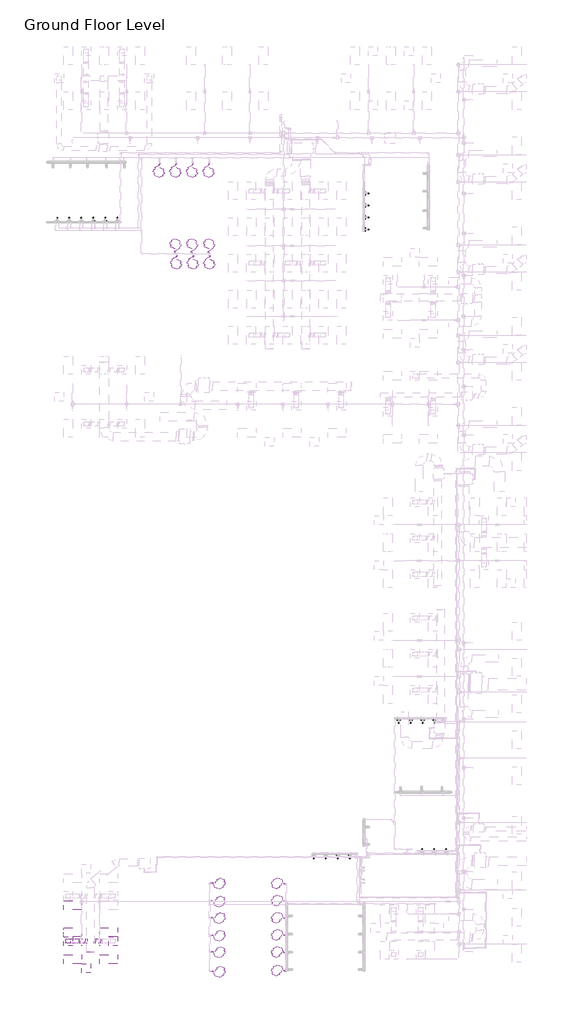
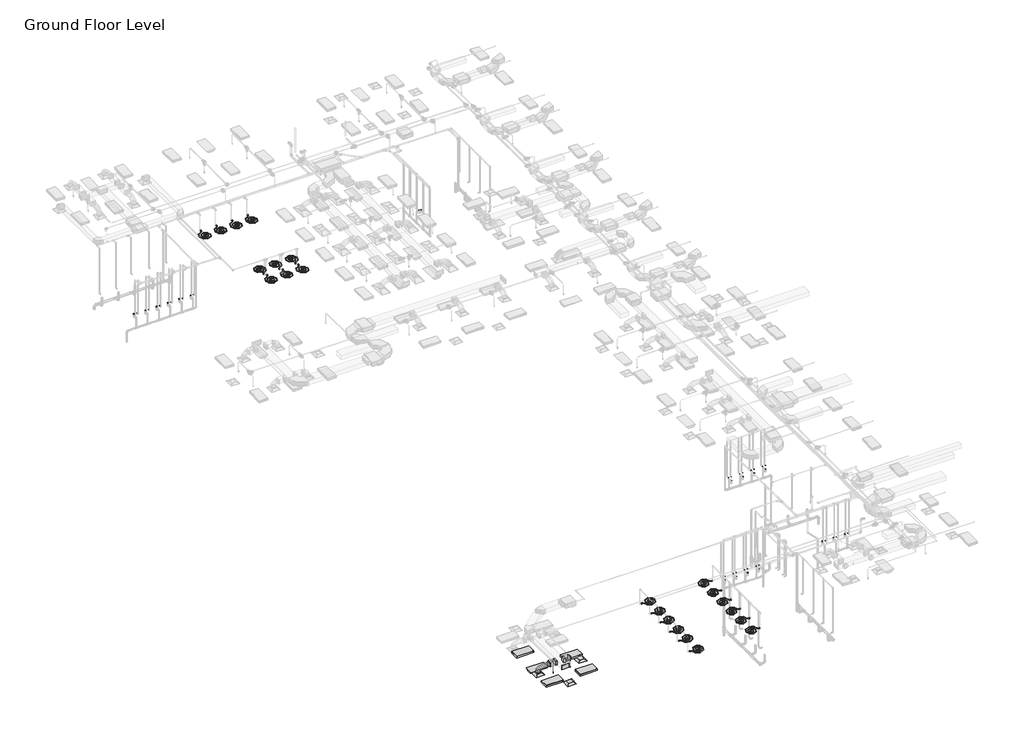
# One storey, part 1 of 66: 43 flow terminals, 6 duct fittings, 5 light fixtures, 3 air terminals, 3 duct segments, 2 fire suppression terminals, 2 pipe segments.
"""IFC4 building model written with IfcOpenShell, lengths in millimetres."""

from ifc_helpers import new_model, si_unit, point, frame, frame_2d, origin, place, context, project, spatial, polyline, circle_curve, ellipse_curve, trimmed, segment, composite_curve, outline, extrude, transform, mapped, element, save
from ifc_brep_helpers import plane_surface, cylinder_surface, advanced_brep
from components import m_return_diffuser_600_x_600_face_300_x_300_connection_ff221211, m_rectangular_endcap_standard_72d4d00d, m_rectangular_takeoff_standard_cb0ccb98, m_rectangular_takeoff_standard_2be5eba1, m_rectangular_to_round_transition_angle_45_degree_641efff0, m_sprinkler_dry_pendent_hosted_15_mm_dry_pendent_9bda8e11, lavatory_unit_m_type_1_c53317d3, shower_m_shower_m_096738a5, m_emergency_recessed_lighting_fixture_600x1200_277_5b10b25d, m_troffer_light_parabolic_rectangular1_0600x1200mm_4_lamp_86473d4a

model = new_model("IFC4")

# Units and contexts
model_context = context("Model", 3, world=origin())
ifc_project = project(units=[si_unit("LENGTHUNIT", "METRE", prefix="MILLI")], contexts=[model_context])

# Site, building, storey
site = spatial("IfcSite", under=ifc_project)
building = spatial("IfcBuilding", under=site)
storey = spatial("IfcBuildingStorey", under=building, Name="Ground Floor Level", Elevation=900.0)

# Air terminals
placement = place(None, origin())
m_return_diffuser_600_x_600_face_300_x_300_connection_shape = m_return_diffuser_600_x_600_face_300_x_300_connection_ff221211(model_context)
element("IfcAirTerminal", 1, ObjectType="M_Return Diffuser : 600 x 600 Face 300 x 300 Connection", at=placement, inside=storey, context=model_context, shape_type="MappedRepresentation", body=[
    mapped(m_return_diffuser_600_x_600_face_300_x_300_connection_shape, transform((-19137.2327605, -40464.7846466, 3650.0), x_axis=(1.0, 0.0, 0.0), y_axis=(0.0, 1.0, 0.0), z_axis=(0.0, 0.0, 1.0))),
])
element("IfcAirTerminal", 2, ObjectType="M_Supply Diffuser : 600 x 600 Face 300 x 300 Connection", at=placement, inside=storey, context=model_context, shape_type="MappedRepresentation", body=[
    mapped(m_return_diffuser_600_x_600_face_300_x_300_connection_shape, transform((-20337.2327605, -38664.7846466, 3650.0), x_axis=(1.0, 0.0, 0.0), y_axis=(0.0, 1.0, 0.0), z_axis=(0.0, 0.0, 1.0))),
])
element("IfcAirTerminal", 3, ObjectType="M_Supply Diffuser : 600 x 600 Face 300 x 300 Connection", at=placement, inside=storey, context=model_context, shape_type="MappedRepresentation", body=[
    mapped(m_return_diffuser_600_x_600_face_300_x_300_connection_shape, transform((-17337.2327605, -38674.7846466, 3650.0), x_axis=(1.0, 0.0, 0.0), y_axis=(0.0, 1.0, 0.0), z_axis=(0.0, 0.0, 1.0))),
])

# Duct fittings
m_rectangular_endcap_standard_shape = m_rectangular_endcap_standard_72d4d00d(model_context)
element("IfcDuctFitting", 4, ObjectType="M_Rectangular Endcap : Standard", at=placement, inside=storey, context=model_context, shape_type="MappedRepresentation", body=[
    mapped(m_rectangular_endcap_standard_shape, transform((-18834.0450532, -39368.1580197, 4100.0), x_axis=(0.0, -1.0, 0.0), y_axis=(1.0, 0.0, 0.0), z_axis=(0.0, 0.0, 1.0))),
])
m_rectangular_takeoff_standard_shape = m_rectangular_takeoff_standard_cb0ccb98(model_context)
element("IfcDuctFitting", 5, ObjectType="M_Rectangular Takeoff : Standard", at=placement, inside=storey, context=model_context, shape_type="MappedRepresentation", body=[
    mapped(m_rectangular_takeoff_standard_shape, transform((-18584.0450532, -38664.7846466, 4100.0), x_axis=(1.0, 0.0, 0.0), y_axis=(0.0, -1.0, 0.0), z_axis=(0.0, 0.0, -1.0))),
])
m_rectangular_takeoff_standard_2_shape = m_rectangular_takeoff_standard_2be5eba1(model_context)
element("IfcDuctFitting", 6, ObjectType="M_Rectangular Takeoff : Standard", at=placement, inside=storey, context=model_context, shape_type="MappedRepresentation", body=[
    mapped(m_rectangular_takeoff_standard_2_shape, transform((-19084.0450532, -38664.7846466, 4100.0), x_axis=(-1.0, 0.0, 0.0), y_axis=(0.0, 1.0, 0.0), z_axis=(0.0, 0.0, -1.0))),
])
m_rectangular_to_round_transition_angle_45_degree_shape = m_rectangular_to_round_transition_angle_45_degree_641efff0(model_context)
element("IfcDuctFitting", 7, ObjectType="M_Rectangular to Round Transition - Angle : 45 Degree", at=placement, inside=storey, context=model_context, shape_type="MappedRepresentation", body=[
    mapped(m_rectangular_to_round_transition_angle_45_degree_shape, transform((-18164.5686918, -38664.7846466, 4100.0), x_axis=(1.0, 0.0, 0.0), y_axis=(0.0, 1.0, 0.0), z_axis=(0.0, 0.0, 1.0))),
])
element("IfcDuctFitting", 8, ObjectType="M_Rectangular to Round Transition - Angle : 45 Degree", at=placement, inside=storey, context=model_context, shape_type="MappedRepresentation", body=[
    mapped(m_rectangular_to_round_transition_angle_45_degree_shape, transform((-20337.2327605, -38664.7846466, 3751.6), x_axis=(0.0, 0.0, 1.0), y_axis=(-1.0, 0.0, 0.0), z_axis=(0.0, -1.0, 0.0))),
])
element("IfcDuctFitting", 9, ObjectType="M_Rectangular to Round Transition - Angle : 45 Degree", at=placement, inside=storey, context=model_context, shape_type="MappedRepresentation", body=[
    mapped(m_rectangular_to_round_transition_angle_45_degree_shape, transform((-19509.8968292, -38664.7846466, 4100.0), x_axis=(-1.0, 0.0, 0.0), y_axis=(0.0, -1.0, 0.0), z_axis=(0.0, 0.0, 1.0))),
])

# Duct segments
element("IfcDuctSegment", 10, ObjectType="Flex - Round", at=placement, inside=storey, context=model_context, shape_type="AdvancedBrep", body=[
    advanced_brep(
    [(-20187.2327605, -38664.7846466, 3826.6), (-20337.2327605, -38814.7846466, 3826.6), (-20487.2327605, -38664.7846466, 3826.6), (-20337.2327605, -38514.7846466, 3826.6), (-20187.2327605, -38664.7846466, 3832.2944892), (-20337.2327605, -38814.7846466, 3857.9377114), (-20487.2327605, -38664.7846466, 3883.5809337), (-20337.2327605, -38514.7846466, 3857.9377114), (-20186.478849, -38664.7846466, 3834.435049), (-20320.216828, -38814.7846466, 3906.2505728), (-20453.9548069, -38664.7846466, 3978.0660967), (-20320.216828, -38514.7846466, 3906.2505728), (-20168.8270484, -38664.7846466, 3857.8020236), (-20273.0329476, -38814.7846466, 3968.7113131), (-20377.2388469, -38664.7846466, 4079.6206026), (-20273.0329476, -38514.7846466, 3968.7113131), (-20132.5429398, -38664.7846466, 3881.8163788), (-20201.4769955, -38814.7846466, 4016.0700639), (-20270.4110511, -38664.7846466, 4150.3237489), (-20201.4769955, -38514.7846466, 4016.0700639), (-20067.7840843, -38664.7846466, 3906.4925606), (-20111.3448475, -38814.7846466, 4050.4146682), (-20154.9056106, -38664.7846466, 4194.3367758), (-20111.3448475, -38514.7846466, 4050.4146682), (-19981.8714556, -38664.7846466, 3926.0424542), (-20008.4323796, -38814.7846466, 4073.8329691), (-20034.9933036, -38664.7846466, 4221.6234841), (-20008.4323796, -38514.7846466, 4073.8329691), (-19883.3845655, -38664.7846466, 3939.1085462), (-19898.5354679, -38814.7846466, 4088.4128097), (-19913.6863702, -38664.7846466, 4237.7170733), (-19898.5354679, -38514.7846466, 4088.4128097), (-19779.9446601, -38664.7846466, 3946.398915), (-19787.4499883, -38814.7846466, 4096.242033), (-19794.9553164, -38664.7846466, 4246.085151), (-19787.4499883, -38514.7846466, 4096.242033), (-19678.2803236, -38664.7846466, 3949.4222102), (-19680.9718167, -38814.7846466, 4099.4084821), (-19683.6633098, -38664.7846466, 4249.394754), (-19680.9718167, -38514.7846466, 4099.4084821), (-19583.9733214, -38664.7846466, 3950.0028429), (-19584.8968292, -38814.7846466, 4100.0), (-19585.8203371, -38664.7846466, 4249.9971571), (-19584.8968292, -38514.7846466, 4100.0)],
    [
        (0, 1, circle_curve(frame((-20337.2327605, -38664.7846466, 3826.6), z_axis=(0.0, 0.0, -1.0), x_axis=(1.0, 0.0, 0.0)), 150.0)),
        (1, 2, circle_curve(frame((-20337.2327605, -38664.7846466, 3826.6), z_axis=(0.0, 0.0, -1.0), x_axis=(1.0, 0.0, 0.0)), 150.0)),
        (2, 3, circle_curve(frame((-20337.2327605, -38664.7846466, 3826.6), z_axis=(0.0, 0.0, -1.0), x_axis=(1.0, 0.0, 0.0)), 150.0)),
        (3, 0, circle_curve(frame((-20337.2327605, -38664.7846466, 3826.6), z_axis=(0.0, 0.0, -1.0), x_axis=(1.0, 0.0, 0.0)), 150.0)),
        (0, 4),
        (4, 5, ellipse_curve(frame((-20337.2327605, -38664.7846466, 3857.9377114), z_axis=(-0.16851014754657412, 0.0, -0.9856999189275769), x_axis=(0.9856999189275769, 0.0, -0.16851014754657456)), 152.176131, 150.0)),
        (5, 1),
        (5, 6, ellipse_curve(frame((-20337.2327605, -38664.7846466, 3857.9377114), z_axis=(-0.16851014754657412, 0.0, -0.9856999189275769), x_axis=(0.9856999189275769, 0.0, -0.16851014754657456)), 152.176131, 150.0)),
        (6, 2),
        (6, 7, ellipse_curve(frame((-20337.2327605, -38664.7846466, 3857.9377114), z_axis=(-0.16851014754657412, 0.0, -0.9856999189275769), x_axis=(0.9856999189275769, 0.0, -0.16851014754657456)), 152.176131, 150.0)),
        (7, 3),
        (7, 4, ellipse_curve(frame((-20337.2327605, -38664.7846466, 3857.9377114), z_axis=(-0.16851014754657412, 0.0, -0.9856999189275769), x_axis=(0.9856999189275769, 0.0, -0.16851014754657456)), 152.176131, 150.0)),
        (4, 8),
        (8, 9, ellipse_curve(frame((-20320.216828, -38664.7846466, 3906.2505728), z_axis=(-0.47309225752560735, 0.0, -0.881012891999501), x_axis=(0.8810128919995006, 0.0, -0.4730922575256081)), 151.8002519, 150.0)),
        (9, 5),
        (9, 10, ellipse_curve(frame((-20320.216828, -38664.7846466, 3906.2505728), z_axis=(-0.47309225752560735, 0.0, -0.881012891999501), x_axis=(0.8810128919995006, 0.0, -0.4730922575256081)), 151.8002519, 150.0)),
        (10, 6),
        (10, 11, ellipse_curve(frame((-20320.216828, -38664.7846466, 3906.2505728), z_axis=(-0.47309225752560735, 0.0, -0.881012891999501), x_axis=(0.8810128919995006, 0.0, -0.4730922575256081)), 151.8002519, 150.0)),
        (11, 7),
        (11, 8, ellipse_curve(frame((-20320.216828, -38664.7846466, 3906.2505728), z_axis=(-0.47309225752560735, 0.0, -0.881012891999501), x_axis=(0.8810128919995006, 0.0, -0.4730922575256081)), 151.8002519, 150.0)),
        (8, 12),
        (12, 13, ellipse_curve(frame((-20273.0329476, -38664.7846466, 3968.7113131), z_axis=(-0.728787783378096, 0.0, -0.6847396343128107), x_axis=(0.6847396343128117, 0.0, -0.7287877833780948)), 152.1832446, 150.0)),
        (13, 9),
        (13, 14, ellipse_curve(frame((-20273.0329476, -38664.7846466, 3968.7113131), z_axis=(-0.728787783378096, 0.0, -0.6847396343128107), x_axis=(0.6847396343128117, 0.0, -0.7287877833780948)), 152.1832446, 150.0)),
        (14, 10),
        (14, 15, ellipse_curve(frame((-20273.0329476, -38664.7846466, 3968.7113131), z_axis=(-0.728787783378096, 0.0, -0.6847396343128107), x_axis=(0.6847396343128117, 0.0, -0.7287877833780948)), 152.1832446, 150.0)),
        (15, 11),
        (15, 12, ellipse_curve(frame((-20273.0329476, -38664.7846466, 3968.7113131), z_axis=(-0.728787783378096, 0.0, -0.6847396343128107), x_axis=(0.6847396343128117, 0.0, -0.7287877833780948)), 152.1832446, 150.0)),
        (12, 16),
        (16, 17, ellipse_curve(frame((-20201.4769955, -38664.7846466, 4016.0700639), z_axis=(-0.8895859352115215, 0.0, -0.4567678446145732), x_axis=(0.45676784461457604, 0.0, -0.88958593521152)), 150.91705, 150.0)),
        (17, 13),
        (17, 18, ellipse_curve(frame((-20201.4769955, -38664.7846466, 4016.0700639), z_axis=(-0.8895859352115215, 0.0, -0.4567678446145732), x_axis=(0.45676784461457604, 0.0, -0.88958593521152)), 150.91705, 150.0)),
        (18, 14),
        (18, 19, ellipse_curve(frame((-20201.4769955, -38664.7846466, 4016.0700639), z_axis=(-0.8895859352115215, 0.0, -0.4567678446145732), x_axis=(0.45676784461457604, 0.0, -0.88958593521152)), 150.91705, 150.0)),
        (19, 15),
        (19, 16, ellipse_curve(frame((-20201.4769955, -38664.7846466, 4016.0700639), z_axis=(-0.8895859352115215, 0.0, -0.4567678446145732), x_axis=(0.45676784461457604, 0.0, -0.88958593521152)), 150.91705, 150.0)),
        (16, 20),
        (20, 21, ellipse_curve(frame((-20111.3448475, -38664.7846466, 4050.4146682), z_axis=(-0.9571203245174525, 0.0, -0.2896906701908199), x_axis=(0.28969067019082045, 0.0, -0.9571203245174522)), 150.369921, 150.0)),
        (21, 17),
        (21, 22, ellipse_curve(frame((-20111.3448475, -38664.7846466, 4050.4146682), z_axis=(-0.9571203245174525, 0.0, -0.2896906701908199), x_axis=(0.28969067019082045, 0.0, -0.9571203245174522)), 150.369921, 150.0)),
        (22, 18),
        (22, 23, ellipse_curve(frame((-20111.3448475, -38664.7846466, 4050.4146682), z_axis=(-0.9571203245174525, 0.0, -0.2896906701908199), x_axis=(0.28969067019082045, 0.0, -0.9571203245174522)), 150.369921, 150.0)),
        (23, 19),
        (23, 20, ellipse_curve(frame((-20111.3448475, -38664.7846466, 4050.4146682), z_axis=(-0.9571203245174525, 0.0, -0.2896906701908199), x_axis=(0.28969067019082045, 0.0, -0.9571203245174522)), 150.369921, 150.0)),
        (20, 24),
        (24, 25, ellipse_curve(frame((-20008.4323796, -38664.7846466, 4073.8329691), z_axis=(-0.9842313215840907, 0.0, -0.17688613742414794), x_axis=(0.17688613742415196, 0.0, -0.9842313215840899)), 150.1583131, 150.0)),
        (25, 21),
        (25, 26, ellipse_curve(frame((-20008.4323796, -38664.7846466, 4073.8329691), z_axis=(-0.9842313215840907, 0.0, -0.17688613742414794), x_axis=(0.17688613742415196, 0.0, -0.9842313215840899)), 150.1583131, 150.0)),
        (26, 22),
        (26, 27, ellipse_curve(frame((-20008.4323796, -38664.7846466, 4073.8329691), z_axis=(-0.9842313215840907, 0.0, -0.17688613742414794), x_axis=(0.17688613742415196, 0.0, -0.9842313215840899)), 150.1583131, 150.0)),
        (27, 23),
        (27, 24, ellipse_curve(frame((-20008.4323796, -38664.7846466, 4073.8329691), z_axis=(-0.9842313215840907, 0.0, -0.17688613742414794), x_axis=(0.17688613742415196, 0.0, -0.9842313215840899)), 150.1583131, 150.0)),
        (24, 28),
        (28, 29, ellipse_curve(frame((-19898.5354679, -38664.7846466, 4088.4128097), z_axis=(-0.9948906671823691, 0.0, -0.1009582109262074), x_axis=(0.10095821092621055, 0.0, -0.9948906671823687)), 150.0710264, 150.0)),
        (29, 25),
        (29, 30, ellipse_curve(frame((-19898.5354679, -38664.7846466, 4088.4128097), z_axis=(-0.9948906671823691, 0.0, -0.1009582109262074), x_axis=(0.10095821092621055, 0.0, -0.9948906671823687)), 150.0710264, 150.0)),
        (30, 26),
        (30, 31, ellipse_curve(frame((-19898.5354679, -38664.7846466, 4088.4128097), z_axis=(-0.9948906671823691, 0.0, -0.1009582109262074), x_axis=(0.10095821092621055, 0.0, -0.9948906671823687)), 150.0710264, 150.0)),
        (31, 27),
        (31, 28, ellipse_curve(frame((-19898.5354679, -38664.7846466, 4088.4128097), z_axis=(-0.9948906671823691, 0.0, -0.1009582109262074), x_axis=(0.10095821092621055, 0.0, -0.9948906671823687)), 150.0710264, 150.0)),
        (28, 32),
        (32, 33, ellipse_curve(frame((-19787.4499883, -38664.7846466, 4096.242033), z_axis=(-0.9987479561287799, 0.0, -0.05002519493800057), x_axis=(0.05002519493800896, 0.0, -0.9987479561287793)), 150.0309634, 150.0)),
        (33, 29),
        (33, 34, ellipse_curve(frame((-19787.4499883, -38664.7846466, 4096.242033), z_axis=(-0.9987479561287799, 0.0, -0.05002519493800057), x_axis=(0.05002519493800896, 0.0, -0.9987479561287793)), 150.0309634, 150.0)),
        (34, 30),
        (34, 35, ellipse_curve(frame((-19787.4499883, -38664.7846466, 4096.242033), z_axis=(-0.9987479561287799, 0.0, -0.05002519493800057), x_axis=(0.05002519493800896, 0.0, -0.9987479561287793)), 150.0309634, 150.0)),
        (35, 31),
        (35, 32, ellipse_curve(frame((-19787.4499883, -38664.7846466, 4096.242033), z_axis=(-0.9987479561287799, 0.0, -0.05002519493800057), x_axis=(0.05002519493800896, 0.0, -0.9987479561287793)), 150.0309634, 150.0)),
        (32, 36),
        (36, 37, ellipse_curve(frame((-19680.9718167, -38664.7846466, 4099.4084821), z_axis=(-0.9998390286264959, 0.0, -0.017942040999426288), x_axis=(0.01794204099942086, 0.0, -0.999839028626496)), 150.0104193, 150.0)),
        (37, 33),
        (37, 38, ellipse_curve(frame((-19680.9718167, -38664.7846466, 4099.4084821), z_axis=(-0.9998390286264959, 0.0, -0.017942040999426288), x_axis=(0.01794204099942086, 0.0, -0.999839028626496)), 150.0104193, 150.0)),
        (38, 34),
        (38, 39, ellipse_curve(frame((-19680.9718167, -38664.7846466, 4099.4084821), z_axis=(-0.9998390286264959, 0.0, -0.017942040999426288), x_axis=(0.01794204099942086, 0.0, -0.999839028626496)), 150.0104193, 150.0)),
        (39, 35),
        (39, 36, ellipse_curve(frame((-19680.9718167, -38664.7846466, 4099.4084821), z_axis=(-0.9998390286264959, 0.0, -0.017942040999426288), x_axis=(0.01794204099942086, 0.0, -0.999839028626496)), 150.0104193, 150.0)),
        (36, 40),
        (40, 41, circle_curve(frame((-19584.8968292, -38664.7846466, 4100.0), z_axis=(-0.9999810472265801, 0.0, -0.006156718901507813), x_axis=(0.006156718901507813, 0.0, -0.9999810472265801)), 150.0)),
        (41, 37),
        (41, 42, circle_curve(frame((-19584.8968292, -38664.7846466, 4100.0), z_axis=(-0.9999810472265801, 0.0, -0.006156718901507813), x_axis=(0.006156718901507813, 0.0, -0.9999810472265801)), 150.0)),
        (42, 38),
        (42, 43, circle_curve(frame((-19584.8968292, -38664.7846466, 4100.0), z_axis=(-0.9999810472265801, 0.0, -0.006156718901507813), x_axis=(0.006156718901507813, 0.0, -0.9999810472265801)), 150.0)),
        (43, 39),
        (43, 40, circle_curve(frame((-19584.8968292, -38664.7846466, 4100.0), z_axis=(-0.9999810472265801, 0.0, -0.006156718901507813), x_axis=(0.006156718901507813, 0.0, -0.9999810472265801)), 150.0)),
    ],
    [
        plane_surface(frame((-20337.2327605, -38814.7846466, 3826.6), z_axis=(0.0, 0.0, -1.0), x_axis=(1.0, 0.0, 0.0))),
        cylinder_surface(frame((-20337.2327605, -38664.7846466, 3826.6), z_axis=(0.0, 0.0, -1.0), x_axis=(1.0, 0.0, 0.0)), 150.0),
        cylinder_surface(frame((-20337.2327605, -38664.7846466, 3857.9377114), z_axis=(-0.3322008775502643, 0.0, -0.9432086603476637), x_axis=(0.9432086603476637, 0.0, -0.3322008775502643)), 150.0),
        cylinder_surface(frame((-20320.216828, -38664.7846466, 3906.2505728), z_axis=(-0.602762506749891, 0.0, -0.7979206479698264), x_axis=(0.7979206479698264, 0.0, -0.602762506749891)), 150.0),
        cylinder_surface(frame((-20273.0329476, -38664.7846466, 3968.7113131), z_axis=(-0.8339024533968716, 0.0, -0.5519118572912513), x_axis=(0.5519118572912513, 0.0, -0.8339024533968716)), 150.0),
        cylinder_surface(frame((-20201.4769955, -38664.7846466, 4016.0700639), z_axis=(-0.9344582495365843, 0.0, -0.35607271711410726), x_axis=(0.35607271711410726, 0.0, -0.9344582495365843)), 150.0),
        cylinder_surface(frame((-20111.3448475, -38664.7846466, 4050.4146682), z_axis=(-0.9750732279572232, 0.0, -0.2218833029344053), x_axis=(0.2218833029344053, 0.0, -0.9750732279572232)), 150.0),
        cylinder_surface(frame((-20008.4323796, -38664.7846466, 4073.8329691), z_axis=(-0.9913140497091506, 0.0, -0.13151598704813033), x_axis=(0.13151598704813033, 0.0, -0.9913140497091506)), 150.0),
        cylinder_surface(frame((-19898.5354679, -38664.7846466, 4088.4128097), z_axis=(-0.9975255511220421, 0.0, -0.07030487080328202), x_axis=(0.07030487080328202, 0.0, -0.9975255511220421)), 150.0),
        cylinder_surface(frame((-19787.4499883, -38664.7846466, 4096.242033), z_axis=(-0.9995581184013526, 0.0, -0.02972487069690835), x_axis=(0.02972487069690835, 0.0, -0.9995581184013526)), 150.0),
        cylinder_surface(frame((-19680.9718167, -38664.7846466, 4099.4084821), z_axis=(-0.9999810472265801, 0.0, -0.006156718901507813), x_axis=(0.006156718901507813, 0.0, -0.9999810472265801)), 150.0),
        plane_surface(frame((-19584.8968292, -38814.7846466, 4100.0), z_axis=(0.9999810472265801, 0.0, 0.00615671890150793), x_axis=(0.00615671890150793, 0.0, -0.9999810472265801))),
    ],
    [
        (0, [[1, 2, 3, 4]]),
        (1, [[-1, 5, 6, 7]]),
        (1, [[-2, -7, 8, 9]]),
        (1, [[-3, -9, 10, 11]]),
        (1, [[-4, -11, 12, -5]]),
        (2, [[-6, 13, 14, 15]]),
        (2, [[-8, -15, 16, 17]]),
        (2, [[-10, -17, 18, 19]]),
        (2, [[-12, -19, 20, -13]]),
        (3, [[-14, 21, 22, 23]]),
        (3, [[-16, -23, 24, 25]]),
        (3, [[-18, -25, 26, 27]]),
        (3, [[-20, -27, 28, -21]]),
        (4, [[-22, 29, 30, 31]]),
        (4, [[-24, -31, 32, 33]]),
        (4, [[-26, -33, 34, 35]]),
        (4, [[-28, -35, 36, -29]]),
        (5, [[-30, 37, 38, 39]]),
        (5, [[-32, -39, 40, 41]]),
        (5, [[-34, -41, 42, 43]]),
        (5, [[-36, -43, 44, -37]]),
        (6, [[-38, 45, 46, 47]]),
        (6, [[-40, -47, 48, 49]]),
        (6, [[-42, -49, 50, 51]]),
        (6, [[-44, -51, 52, -45]]),
        (7, [[-46, 53, 54, 55]]),
        (7, [[-48, -55, 56, 57]]),
        (7, [[-50, -57, 58, 59]]),
        (7, [[-52, -59, 60, -53]]),
        (8, [[-54, 61, 62, 63]]),
        (8, [[-56, -63, 64, 65]]),
        (8, [[-58, -65, 66, 67]]),
        (8, [[-60, -67, 68, -61]]),
        (9, [[-62, 69, 70, 71]]),
        (9, [[-64, -71, 72, 73]]),
        (9, [[-66, -73, 74, 75]]),
        (9, [[-68, -75, 76, -69]]),
        (10, [[-70, 77, 78, 79]]),
        (10, [[-72, -79, 80, 81]]),
        (10, [[-74, -81, 82, 83]]),
        (10, [[-76, -83, 84, -77]]),
        (11, [[-84, -82, -80, -78]]),
    ],
),
])
element("IfcDuctSegment", 11, ObjectType="Radius Elbows / Taps", at=placement, inside=storey, context=model_context, shape_type="SweptSolid", body=[
    extrude(outline(polyline([(-19185.6450532, -38514.7846466), (-19185.6450532, -38814.7846466), (-19509.8968292, -38814.7846466), (-19509.8968292, -38514.7846466), (-19185.6450532, -38514.7846466)])), frame((0.0, 0.0, 3950.0), z_axis=(0.0, 0.0, 1.0), x_axis=(1.0, 0.0, 0.0)), (0.0, 0.0, 1.0), 300.0),
])
element("IfcDuctSegment", 12, ObjectType="Radius Elbows / Taps", at=placement, inside=storey, context=model_context, shape_type="SweptSolid", body=[
    extrude(outline(polyline([(-18482.4450532, -38814.7846466), (-18482.4450532, -38514.7846466), (-18164.5686918, -38514.7846466), (-18164.5686918, -38814.7846466), (-18482.4450532, -38814.7846466)])), frame((0.0, 0.0, 3950.0), z_axis=(0.0, 0.0, 1.0), x_axis=(1.0, 0.0, 0.0)), (0.0, 0.0, 1.0), 300.0),
])

# Fire suppression terminals
m_sprinkler_dry_pendent_hosted_15_mm_dry_pendent_shape = m_sprinkler_dry_pendent_hosted_15_mm_dry_pendent_9bda8e11(model_context)
element("IfcFireSuppressionTerminal", 13, ObjectType="M_Sprinkler - Dry - Pendent - Hosted : 15 mm Dry Pendent", at=placement, inside=storey, context=model_context, shape_type="MappedRepresentation", body=[
    mapped(m_sprinkler_dry_pendent_hosted_15_mm_dry_pendent_shape, transform((-18237.2327605, -38964.7846466, 3650.0), x_axis=(1.0, 0.0, 0.0), y_axis=(0.0, -1.0, 0.0), z_axis=(0.0, 0.0, -1.0))),
])
element("IfcFireSuppressionTerminal", 14, ObjectType="M_Sprinkler - Dry - Pendent - Hosted : 15 mm Dry Pendent", at=placement, inside=storey, context=model_context, shape_type="MappedRepresentation", body=[
    mapped(m_sprinkler_dry_pendent_hosted_15_mm_dry_pendent_shape, transform((-19437.2327605, -38964.7846466, 3650.0), x_axis=(1.0, 0.0, 0.0), y_axis=(0.0, -1.0, 0.0), z_axis=(0.0, 0.0, -1.0))),
])

# Flow terminals
lavatory_unit_m_type_1_shape = lavatory_unit_m_type_1_c53317d3(model_context)
element("IfcFlowTerminal", 15, ObjectType="Lavatory Unit-M : Type 1", at=placement, inside=storey, context=model_context, shape_type="MappedRepresentation", body=[
    mapped(lavatory_unit_m_type_1_shape, transform((-21186.2502, 9255.2153534, 920.0), x_axis=(1.0, 0.0, 0.0), y_axis=(0.0, 1.0, 0.0), z_axis=(0.0, 0.0, 1.0))),
])
element("IfcFlowTerminal", 16, ObjectType="Lavatory Unit-M : Type 1", at=placement, inside=storey, context=model_context, shape_type="MappedRepresentation", body=[
    mapped(lavatory_unit_m_type_1_shape, transform((-20386.2502, 9255.2153534, 920.0), x_axis=(1.0, 0.0, 0.0), y_axis=(0.0, 1.0, 0.0), z_axis=(0.0, 0.0, 1.0))),
])
element("IfcFlowTerminal", 17, ObjectType="Lavatory Unit-M : Type 1", at=placement, inside=storey, context=model_context, shape_type="MappedRepresentation", body=[
    mapped(lavatory_unit_m_type_1_shape, transform((-537.2327605, 8796.1979139, 920.0), x_axis=(0.0, -1.0, 0.0), y_axis=(1.0, 0.0, 0.0), z_axis=(0.0, 0.0, 1.0))),
])
element("IfcFlowTerminal", 18, ObjectType="Lavatory Unit-M : Type 1", at=placement, inside=storey, context=model_context, shape_type="MappedRepresentation", body=[
    mapped(lavatory_unit_m_type_1_shape, transform((-19586.2502, 9255.2153534, 920.0), x_axis=(1.0, 0.0, 0.0), y_axis=(0.0, 1.0, 0.0), z_axis=(0.0, 0.0, 1.0))),
])
element("IfcFlowTerminal", 19, ObjectType="Lavatory Unit-M : Type 1", at=placement, inside=storey, context=model_context, shape_type="MappedRepresentation", body=[
    mapped(lavatory_unit_m_type_1_shape, transform((-18786.2502, 9255.2153534, 920.0), x_axis=(1.0, 0.0, 0.0), y_axis=(0.0, 1.0, 0.0), z_axis=(0.0, 0.0, 1.0))),
])
element("IfcFlowTerminal", 20, ObjectType="Lavatory Unit-M : Type 1", at=placement, inside=storey, context=model_context, shape_type="MappedRepresentation", body=[
    mapped(lavatory_unit_m_type_1_shape, transform((-17986.2502, 9255.2153534, 920.0), x_axis=(1.0, 0.0, 0.0), y_axis=(0.0, 1.0, 0.0), z_axis=(0.0, 0.0, 1.0))),
])
element("IfcFlowTerminal", 21, ObjectType="Lavatory Unit-M : Type 1", at=placement, inside=storey, context=model_context, shape_type="MappedRepresentation", body=[
    mapped(lavatory_unit_m_type_1_shape, transform((-17186.2502, 9255.2153534, 920.0), x_axis=(1.0, 0.0, 0.0), y_axis=(0.0, 1.0, 0.0), z_axis=(0.0, 0.0, 1.0))),
])
element("IfcFlowTerminal", 22, ObjectType="Lavatory Unit-M : Type 1", at=placement, inside=storey, context=model_context, shape_type="MappedRepresentation", body=[
    mapped(lavatory_unit_m_type_1_shape, transform((-537.2327605, 9596.1979139, 920.0), x_axis=(0.0, -1.0, 0.0), y_axis=(1.0, 0.0, 0.0), z_axis=(0.0, 0.0, 1.0))),
])
element("IfcFlowTerminal", 23, ObjectType="Lavatory Unit-M : Type 1", at=placement, inside=storey, context=model_context, shape_type="MappedRepresentation", body=[
    mapped(lavatory_unit_m_type_1_shape, transform((-537.2327605, 10396.1979139, 920.0), x_axis=(0.0, -1.0, 0.0), y_axis=(1.0, 0.0, 0.0), z_axis=(0.0, 0.0, 1.0))),
])
element("IfcFlowTerminal", 24, ObjectType="Lavatory Unit-M : Type 1", at=placement, inside=storey, context=model_context, shape_type="MappedRepresentation", body=[
    mapped(lavatory_unit_m_type_1_shape, transform((-537.2327605, 11196.1979139, 920.0), x_axis=(0.0, -1.0, 0.0), y_axis=(1.0, 0.0, 0.0), z_axis=(0.0, 0.0, 1.0))),
])
element("IfcFlowTerminal", 25, ObjectType="Lavatory Unit-M : Type 1", at=placement, inside=storey, context=model_context, shape_type="MappedRepresentation", body=[
    mapped(lavatory_unit_m_type_1_shape, transform((1803.7498, -23964.7846466, 920.0), x_axis=(-1.0, 0.0, 0.0), y_axis=(0.0, -1.0, 0.0), z_axis=(0.0, 0.0, 1.0))),
])
element("IfcFlowTerminal", 26, ObjectType="Lavatory Unit-M : Type 1", at=placement, inside=storey, context=model_context, shape_type="MappedRepresentation", body=[
    mapped(lavatory_unit_m_type_1_shape, transform((2603.7498, -23964.7846466, 920.0), x_axis=(-1.0, 0.0, 0.0), y_axis=(0.0, -1.0, 0.0), z_axis=(0.0, 0.0, 1.0))),
])
element("IfcFlowTerminal", 27, ObjectType="Lavatory Unit-M : Type 1", at=placement, inside=storey, context=model_context, shape_type="MappedRepresentation", body=[
    mapped(lavatory_unit_m_type_1_shape, transform((3403.7498, -23964.7846466, 920.0), x_axis=(-1.0, 0.0, 0.0), y_axis=(0.0, -1.0, 0.0), z_axis=(0.0, 0.0, 1.0))),
])
element("IfcFlowTerminal", 28, ObjectType="Lavatory Unit-M : Type 1", at=placement, inside=storey, context=model_context, shape_type="MappedRepresentation", body=[
    mapped(lavatory_unit_m_type_1_shape, transform((4203.7498, -23964.7846466, 920.0), x_axis=(-1.0, 0.0, 0.0), y_axis=(0.0, -1.0, 0.0), z_axis=(0.0, 0.0, 1.0))),
])
element("IfcFlowTerminal", 29, ObjectType="Lavatory Unit-M : Type 1", at=placement, inside=storey, context=model_context, shape_type="MappedRepresentation", body=[
    mapped(lavatory_unit_m_type_1_shape, transform((4701.7846789, -32744.7846466, 920.0), x_axis=(1.0, 0.0, 0.0), y_axis=(0.0, 1.0, 0.0), z_axis=(0.0, 0.0, 1.0))),
])
element("IfcFlowTerminal", 30, ObjectType="Lavatory Unit-M : Type 1", at=placement, inside=storey, context=model_context, shape_type="MappedRepresentation", body=[
    mapped(lavatory_unit_m_type_1_shape, transform((3901.7846789, -32744.7846466, 920.0), x_axis=(1.0, 0.0, 0.0), y_axis=(0.0, 1.0, 0.0), z_axis=(0.0, 0.0, 1.0))),
])
element("IfcFlowTerminal", 31, ObjectType="Lavatory Unit-M : Type 1", at=placement, inside=storey, context=model_context, shape_type="MappedRepresentation", body=[
    mapped(lavatory_unit_m_type_1_shape, transform((3101.7846789, -32744.7846466, 920.0), x_axis=(1.0, 0.0, 0.0), y_axis=(0.0, 1.0, 0.0), z_axis=(0.0, 0.0, 1.0))),
])
element("IfcFlowTerminal", 32, ObjectType="Lavatory Unit-M : Type 1", at=placement, inside=storey, context=model_context, shape_type="MappedRepresentation", body=[
    mapped(lavatory_unit_m_type_1_shape, transform((-1448.215321, -32964.7846466, 920.0), x_axis=(-1.0, 0.0, 0.0), y_axis=(0.0, -1.0, 0.0), z_axis=(0.0, 0.0, 1.0))),
])
element("IfcFlowTerminal", 33, ObjectType="Lavatory Unit-M : Type 1", at=placement, inside=storey, context=model_context, shape_type="MappedRepresentation", body=[
    mapped(lavatory_unit_m_type_1_shape, transform((-2248.215321, -32964.7846466, 920.0), x_axis=(-1.0, 0.0, 0.0), y_axis=(0.0, -1.0, 0.0), z_axis=(0.0, 0.0, 1.0))),
])
element("IfcFlowTerminal", 34, ObjectType="Lavatory Unit-M : Type 1", at=placement, inside=storey, context=model_context, shape_type="MappedRepresentation", body=[
    mapped(lavatory_unit_m_type_1_shape, transform((-3048.215321, -32964.7846466, 920.0), x_axis=(-1.0, 0.0, 0.0), y_axis=(0.0, -1.0, 0.0), z_axis=(0.0, 0.0, 1.0))),
])
element("IfcFlowTerminal", 35, ObjectType="Lavatory Unit-M : Type 1", at=placement, inside=storey, context=model_context, shape_type="MappedRepresentation", body=[
    mapped(lavatory_unit_m_type_1_shape, transform((-3848.215321, -32964.7846466, 920.0), x_axis=(-1.0, 0.0, 0.0), y_axis=(0.0, -1.0, 0.0), z_axis=(0.0, 0.0, 1.0))),
])
shower_m_shower_m_shape = shower_m_shower_m_096738a5(model_context)
element("IfcFlowTerminal", 36, ObjectType="Shower-M : Shower-M", at=placement, inside=storey, context=model_context, shape_type="MappedRepresentation", body=[
    mapped(shower_m_shower_m_shape, transform((-10283.9007605, -34799.6019973, 3200.0), x_axis=(-1.0, 0.0, 0.0), y_axis=(0.0, -1.0, 0.0), z_axis=(0.0, 0.0, 1.0))),
])
element("IfcFlowTerminal", 37, ObjectType="Shower-M : Shower-M", at=placement, inside=storey, context=model_context, shape_type="MappedRepresentation", body=[
    mapped(shower_m_shower_m_shape, transform((-10283.9007605, -35999.6019973, 3200.0), x_axis=(-1.0, 0.0, 0.0), y_axis=(0.0, -1.0, 0.0), z_axis=(0.0, 0.0, 1.0))),
])
element("IfcFlowTerminal", 38, ObjectType="Shower-M : Shower-M", at=placement, inside=storey, context=model_context, shape_type="MappedRepresentation", body=[
    mapped(shower_m_shower_m_shape, transform((-10283.9007605, -37099.6019973, 3200.0), x_axis=(-1.0, 0.0, 0.0), y_axis=(0.0, -1.0, 0.0), z_axis=(0.0, 0.0, 1.0))),
])
element("IfcFlowTerminal", 39, ObjectType="Shower-M : Shower-M", at=placement, inside=storey, context=model_context, shape_type="MappedRepresentation", body=[
    mapped(shower_m_shower_m_shape, transform((-10283.9007605, -38269.7846466, 3200.0), x_axis=(-1.0, 0.0, 0.0), y_axis=(0.0, -1.0, 0.0), z_axis=(0.0, 0.0, 1.0))),
])
element("IfcFlowTerminal", 40, ObjectType="Shower-M : Shower-M", at=placement, inside=storey, context=model_context, shape_type="MappedRepresentation", body=[
    mapped(shower_m_shower_m_shape, transform((-10283.9007605, -39369.7846466, 3200.0), x_axis=(-1.0, 0.0, 0.0), y_axis=(0.0, -1.0, 0.0), z_axis=(0.0, 0.0, 1.0))),
])
element("IfcFlowTerminal", 41, ObjectType="Shower-M : Shower-M", at=placement, inside=storey, context=model_context, shape_type="MappedRepresentation", body=[
    mapped(shower_m_shower_m_shape, transform((-10283.9007605, -40669.7846466, 3200.0), x_axis=(-1.0, 0.0, 0.0), y_axis=(0.0, -1.0, 0.0), z_axis=(0.0, 0.0, 1.0))),
])
element("IfcFlowTerminal", 42, ObjectType="Shower-M : Shower-M", at=placement, inside=storey, context=model_context, shape_type="MappedRepresentation", body=[
    mapped(shower_m_shower_m_shape, transform((-6390.5687605, -34864.6926466, 3200.0), x_axis=(1.0, 0.0, 0.0), y_axis=(0.0, 1.0, 0.0), z_axis=(0.0, 0.0, 1.0))),
])
element("IfcFlowTerminal", 43, ObjectType="Shower-M : Shower-M", at=placement, inside=storey, context=model_context, shape_type="MappedRepresentation", body=[
    mapped(shower_m_shower_m_shape, transform((-6390.5687605, -36012.7835466, 3200.0), x_axis=(1.0, 0.0, 0.0), y_axis=(0.0, 1.0, 0.0), z_axis=(0.0, 0.0, 1.0))),
])
element("IfcFlowTerminal", 44, ObjectType="Shower-M : Shower-M", at=placement, inside=storey, context=model_context, shape_type="MappedRepresentation", body=[
    mapped(shower_m_shower_m_shape, transform((-6390.5687605, -37152.7833366, 3200.0), x_axis=(1.0, 0.0, 0.0), y_axis=(0.0, 1.0, 0.0), z_axis=(0.0, 0.0, 1.0))),
])
element("IfcFlowTerminal", 45, ObjectType="Shower-M : Shower-M", at=placement, inside=storey, context=model_context, shape_type="MappedRepresentation", body=[
    mapped(shower_m_shower_m_shape, transform((-6390.5687605, -38292.7833266, 3200.0), x_axis=(1.0, 0.0, 0.0), y_axis=(0.0, 1.0, 0.0), z_axis=(0.0, 0.0, 1.0))),
])
element("IfcFlowTerminal", 46, ObjectType="Shower-M : Shower-M", at=placement, inside=storey, context=model_context, shape_type="MappedRepresentation", body=[
    mapped(shower_m_shower_m_shape, transform((-6390.5687605, -39432.7929166, 3200.0), x_axis=(1.0, 0.0, 0.0), y_axis=(0.0, 1.0, 0.0), z_axis=(0.0, 0.0, 1.0))),
])
element("IfcFlowTerminal", 47, ObjectType="Shower-M : Shower-M", at=placement, inside=storey, context=model_context, shape_type="MappedRepresentation", body=[
    mapped(shower_m_shower_m_shape, transform((-6390.5687605, -40654.7846466, 3200.0), x_axis=(1.0, 0.0, 0.0), y_axis=(0.0, 1.0, 0.0), z_axis=(0.0, 0.0, 1.0))),
])
element("IfcFlowTerminal", 48, ObjectType="Shower-M : Shower-M", at=placement, inside=storey, context=model_context, shape_type="MappedRepresentation", body=[
    mapped(shower_m_shower_m_shape, transform((-14247.2327605, 12535.2153534, 3200.0), x_axis=(0.0, 1.0, 0.0), y_axis=(-1.0, 0.0, 0.0), z_axis=(0.0, 0.0, 1.0))),
])
element("IfcFlowTerminal", 49, ObjectType="Shower-M : Shower-M", at=placement, inside=storey, context=model_context, shape_type="MappedRepresentation", body=[
    mapped(shower_m_shower_m_shape, transform((-13147.2327605, 12535.2153534, 3200.0), x_axis=(0.0, 1.0, 0.0), y_axis=(-1.0, 0.0, 0.0), z_axis=(0.0, 0.0, 1.0))),
])
element("IfcFlowTerminal", 50, ObjectType="Shower-M : Shower-M", at=placement, inside=storey, context=model_context, shape_type="MappedRepresentation", body=[
    mapped(shower_m_shower_m_shape, transform((-12047.2327605, 12535.2153534, 3200.0), x_axis=(0.0, 1.0, 0.0), y_axis=(-1.0, 0.0, 0.0), z_axis=(0.0, 0.0, 1.0))),
])
element("IfcFlowTerminal", 51, ObjectType="Shower-M : Shower-M", at=placement, inside=storey, context=model_context, shape_type="MappedRepresentation", body=[
    mapped(shower_m_shower_m_shape, transform((-10947.2327605, 12535.2153534, 3200.0), x_axis=(0.0, 1.0, 0.0), y_axis=(-1.0, 0.0, 0.0), z_axis=(0.0, 0.0, 1.0))),
])
element("IfcFlowTerminal", 52, ObjectType="Shower-M : Shower-M", at=placement, inside=storey, context=model_context, shape_type="MappedRepresentation", body=[
    mapped(shower_m_shower_m_shape, transform((-13232.2327605, 7645.2153534, 3200.0), x_axis=(0.0, -1.0, 0.0), y_axis=(1.0, 0.0, 0.0), z_axis=(0.0, 0.0, 1.0))),
])
element("IfcFlowTerminal", 53, ObjectType="Shower-M : Shower-M", at=placement, inside=storey, context=model_context, shape_type="MappedRepresentation", body=[
    mapped(shower_m_shower_m_shape, transform((-12122.2327605, 7645.2153534, 3200.0), x_axis=(0.0, -1.0, 0.0), y_axis=(1.0, 0.0, 0.0), z_axis=(0.0, 0.0, 1.0))),
])
element("IfcFlowTerminal", 54, ObjectType="Shower-M : Shower-M", at=placement, inside=storey, context=model_context, shape_type="MappedRepresentation", body=[
    mapped(shower_m_shower_m_shape, transform((-10987.2327605, 7645.2153534, 3200.0), x_axis=(0.0, -1.0, 0.0), y_axis=(1.0, 0.0, 0.0), z_axis=(0.0, 0.0, 1.0))),
])
element("IfcFlowTerminal", 55, ObjectType="Shower-M : Shower-M", at=placement, inside=storey, context=model_context, shape_type="MappedRepresentation", body=[
    mapped(shower_m_shower_m_shape, transform((-10897.2327605, 6425.2153534, 3200.0), x_axis=(0.0, 1.0, 0.0), y_axis=(-1.0, 0.0, 0.0), z_axis=(0.0, 0.0, 1.0))),
])
element("IfcFlowTerminal", 56, ObjectType="Shower-M : Shower-M", at=placement, inside=storey, context=model_context, shape_type="MappedRepresentation", body=[
    mapped(shower_m_shower_m_shape, transform((-11997.2327605, 6435.2153534, 3200.0), x_axis=(0.0, 1.0, 0.0), y_axis=(-1.0, 0.0, 0.0), z_axis=(0.0, 0.0, 1.0))),
])
element("IfcFlowTerminal", 57, ObjectType="Shower-M : Shower-M", at=placement, inside=storey, context=model_context, shape_type="MappedRepresentation", body=[
    mapped(shower_m_shower_m_shape, transform((-13107.2327605, 6435.2153534, 3200.0), x_axis=(0.0, 1.0, 0.0), y_axis=(-1.0, 0.0, 0.0), z_axis=(0.0, 0.0, 1.0))),
])

# Light fixtures
m_emergency_recessed_lighting_fixture_600x1200_277_shape = m_emergency_recessed_lighting_fixture_600x1200_277_5b10b25d(model_context)
element("IfcLightFixture", 58, ObjectType="M_Emergency Recessed Lighting Fixture : 600x1200 - 277", at=placement, inside=storey, context=model_context, shape_type="MappedRepresentation", body=[
    mapped(m_emergency_recessed_lighting_fixture_600x1200_277_shape, transform((-20637.2327605, -37764.7846466, 3650.0), x_axis=(1.0, 0.0, 0.0), y_axis=(0.0, 1.0, 0.0), z_axis=(0.0, 0.0, 1.0))),
])
m_troffer_light_parabolic_rectangular1_0600x1200mm_4_lamp_shape = m_troffer_light_parabolic_rectangular1_0600x1200mm_4_lamp_86473d4a(model_context)
element("IfcLightFixture", 59, ObjectType="M_Troffer Light - Parabolic Rectangular1 : 0600x1200mm(4 Lamp) - 277V 2", at=placement, inside=storey, context=model_context, shape_type="MappedRepresentation", body=[
    mapped(m_troffer_light_parabolic_rectangular1_0600x1200mm_4_lamp_shape, transform((-20018.5292589, -39811.6319125, 3650.0), x_axis=(1.0, 0.0, 0.0), y_axis=(0.0, 1.0, 0.0), z_axis=(0.0, 0.0, 1.0))),
])
element("IfcLightFixture", 60, ObjectType="M_Troffer Light - Parabolic Rectangular1 : 0600x1200mm(4 Lamp) - 277V 2", at=placement, inside=storey, context=model_context, shape_type="MappedRepresentation", body=[
    mapped(m_troffer_light_parabolic_rectangular1_0600x1200mm_4_lamp_shape, transform((-17618.5292589, -39811.6319125, 3650.0), x_axis=(1.0, 0.0, 0.0), y_axis=(0.0, 1.0, 0.0), z_axis=(0.0, 0.0, 1.0))),
])
element("IfcLightFixture", 61, ObjectType="M_Troffer Light - Parabolic Rectangular1 : 0600x1200mm(4 Lamp) - 277V 2", at=placement, inside=storey, context=model_context, shape_type="MappedRepresentation", body=[
    mapped(m_troffer_light_parabolic_rectangular1_0600x1200mm_4_lamp_shape, transform((-17618.5292589, -38011.6319125, 3650.0), x_axis=(1.0, 0.0, 0.0), y_axis=(0.0, 1.0, 0.0), z_axis=(0.0, 0.0, 1.0))),
])
element("IfcLightFixture", 62, ObjectType="M_Troffer Light - Parabolic Rectangular1 : 0600x1200mm(4 Lamp) - 277V 2", at=placement, inside=storey, context=model_context, shape_type="MappedRepresentation", body=[
    mapped(m_troffer_light_parabolic_rectangular1_0600x1200mm_4_lamp_shape, transform((-20018.5292589, -36211.6319125, 3650.0), x_axis=(1.0, 0.0, 0.0), y_axis=(0.0, 1.0, 0.0), z_axis=(0.0, 0.0, 1.0))),
])

# Pipe segments
element("IfcPipeSegment", 63, ObjectType="Steel flanged", at=placement, inside=storey, context=model_context, shape_type="SweptSolid", body=[
    extrude(outline(composite_curve([segment(trimmed(circle_curve(frame_2d((-19437.2327605, -38964.7846466)), 10.668), [point((-19447.9007605, -38964.7846466))], [point((-19437.2327605, -38954.1166466))], False, "CARTESIAN"), True, "CONTINUOUS"), segment(trimmed(circle_curve(frame_2d((-19437.2327605, -38964.7846466)), 10.668), [point((-19437.2327605, -38954.1166466))], [point((-19426.5647605, -38964.7846466))], False, "CARTESIAN"), True, "CONTINUOUS"), segment(trimmed(circle_curve(frame_2d((-19437.2327605, -38964.7846466)), 10.668), [point((-19426.5647605, -38964.7846466))], [point((-19437.2327605, -38975.4526466))], False, "CARTESIAN"), True, "CONTINUOUS"), segment(trimmed(circle_curve(frame_2d((-19437.2327605, -38964.7846466)), 10.668), [point((-19437.2327605, -38975.4526466))], [point((-19447.9007605, -38964.7846466))], False, "CARTESIAN"), True, "CONTINUOUS")], self_intersect=False)), frame((0.0, 0.0, 3650.0), z_axis=(0.0, 0.0, 1.0), x_axis=(1.0, 0.0, 0.0)), (0.0, 0.0, 1.0), 604.4914063),
])
element("IfcPipeSegment", 64, ObjectType="Steel flanged", at=placement, inside=storey, context=model_context, shape_type="SweptSolid", body=[
    extrude(outline(composite_curve([segment(trimmed(circle_curve(frame_2d((-18237.2327605, -38964.7846466)), 10.668), [point((-18247.9007605, -38964.7846466))], [point((-18237.2327605, -38954.1166466))], False, "CARTESIAN"), True, "CONTINUOUS"), segment(trimmed(circle_curve(frame_2d((-18237.2327605, -38964.7846466)), 10.668), [point((-18237.2327605, -38954.1166466))], [point((-18226.5647605, -38964.7846466))], False, "CARTESIAN"), True, "CONTINUOUS"), segment(trimmed(circle_curve(frame_2d((-18237.2327605, -38964.7846466)), 10.668), [point((-18226.5647605, -38964.7846466))], [point((-18237.2327605, -38975.4526466))], False, "CARTESIAN"), True, "CONTINUOUS"), segment(trimmed(circle_curve(frame_2d((-18237.2327605, -38964.7846466)), 10.668), [point((-18237.2327605, -38975.4526466))], [point((-18247.9007605, -38964.7846466))], False, "CARTESIAN"), True, "CONTINUOUS")], self_intersect=False)), frame((0.0, 0.0, 3650.0), z_axis=(0.0, 0.0, 1.0), x_axis=(1.0, 0.0, 0.0)), (0.0, 0.0, 1.0), 604.4914063),
])

save(model, "model.ifc")
